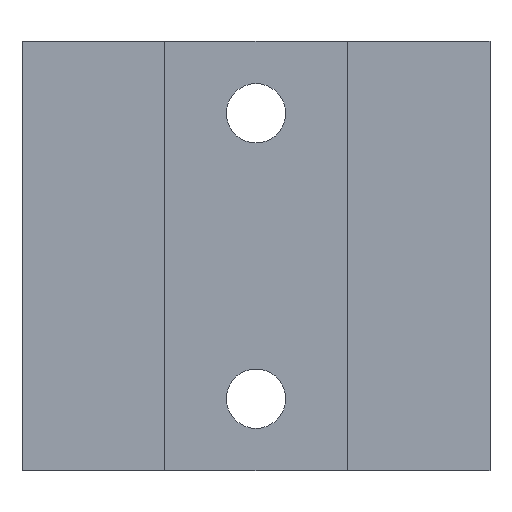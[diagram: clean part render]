
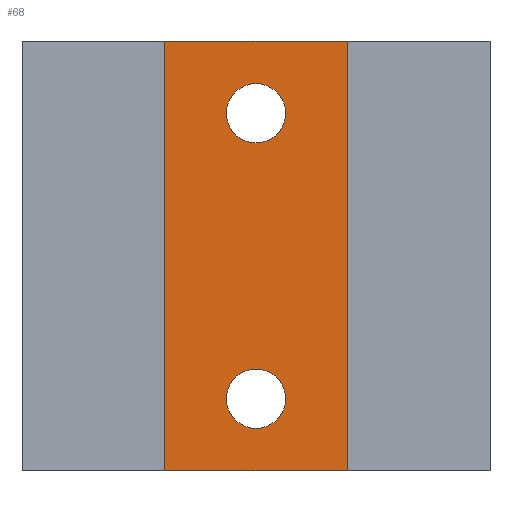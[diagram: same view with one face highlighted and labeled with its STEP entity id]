
A CAD part, front view. The second image highlights one B-rep face of the part: STEP entity #68.
In plain terms, the highlighted planar face has unit normal (0, -1, 0).
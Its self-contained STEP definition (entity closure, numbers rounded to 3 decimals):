
#46=FACE_BOUND('',#106,.T.);
#47=FACE_BOUND('',#107,.T.);
#48=FACE_BOUND('',#108,.T.);
#60=CIRCLE('',#325,2.6);
#61=CIRCLE('',#326,2.6);
#68=ADVANCED_FACE('',(#46,#47,#48),#84,.T.);
#84=PLANE('',#327);
#106=EDGE_LOOP('',(#136));
#107=EDGE_LOOP('',(#137));
#108=EDGE_LOOP('',(#138,#139,#140,#141));
#136=ORIENTED_EDGE('',*,*,#233,.F.);
#137=ORIENTED_EDGE('',*,*,#234,.F.);
#138=ORIENTED_EDGE('',*,*,#235,.F.);
#139=ORIENTED_EDGE('',*,*,#232,.F.);
#140=ORIENTED_EDGE('',*,*,#236,.T.);
#141=ORIENTED_EDGE('',*,*,#237,.T.);
#204=VERTEX_POINT('',#432);
#205=VERTEX_POINT('',#434);
#206=VERTEX_POINT('',#438);
#207=VERTEX_POINT('',#440);
#208=VERTEX_POINT('',#442);
#209=VERTEX_POINT('',#444);
#232=EDGE_CURVE('',#205,#204,#268,.T.);
#233=EDGE_CURVE('',#206,#206,#60,.T.);
#234=EDGE_CURVE('',#207,#207,#61,.T.);
#235=EDGE_CURVE('',#204,#208,#269,.T.);
#236=EDGE_CURVE('',#205,#209,#270,.T.);
#237=EDGE_CURVE('',#209,#208,#271,.T.);
#268=LINE('',#435,#298);
#269=LINE('',#441,#299);
#270=LINE('',#443,#300);
#271=LINE('',#445,#301);
#298=VECTOR('',#355,1.);
#299=VECTOR('',#362,1.);
#300=VECTOR('',#363,1.);
#301=VECTOR('',#364,1.);
#325=AXIS2_PLACEMENT_3D('',#437,#358,#359);
#326=AXIS2_PLACEMENT_3D('',#439,#360,#361);
#327=AXIS2_PLACEMENT_3D('',#446,#365,#366);
#355=DIRECTION('',(0.,0.,-1.));
#358=DIRECTION('',(0.,-1.,0.));
#359=DIRECTION('',(0.,0.,-1.));
#360=DIRECTION('',(0.,-1.,0.));
#361=DIRECTION('',(0.,0.,-1.));
#362=DIRECTION('',(-1.,0.,0.));
#363=DIRECTION('',(-1.,0.,0.));
#364=DIRECTION('',(0.,0.,-1.));
#365=DIRECTION('',(0.,-1.,0.));
#366=DIRECTION('',(0.,0.,-1.));
#432=CARTESIAN_POINT('',(8.,0.,-18.8));
#434=CARTESIAN_POINT('',(8.,0.,18.8));
#435=CARTESIAN_POINT('',(8.,0.,18.8));
#437=CARTESIAN_POINT('',(0.,0.,12.5));
#438=CARTESIAN_POINT('',(0.,0.,9.9));
#439=CARTESIAN_POINT('',(0.,0.,-12.5));
#440=CARTESIAN_POINT('',(0.,0.,-15.1));
#441=CARTESIAN_POINT('',(0.,0.,-18.8));
#442=CARTESIAN_POINT('',(-8.,0.,-18.8));
#443=CARTESIAN_POINT('',(8.,0.,18.8));
#444=CARTESIAN_POINT('',(-8.,0.,18.8));
#445=CARTESIAN_POINT('',(-8.,0.,18.8));
#446=CARTESIAN_POINT('',(0.,0.,18.8));
